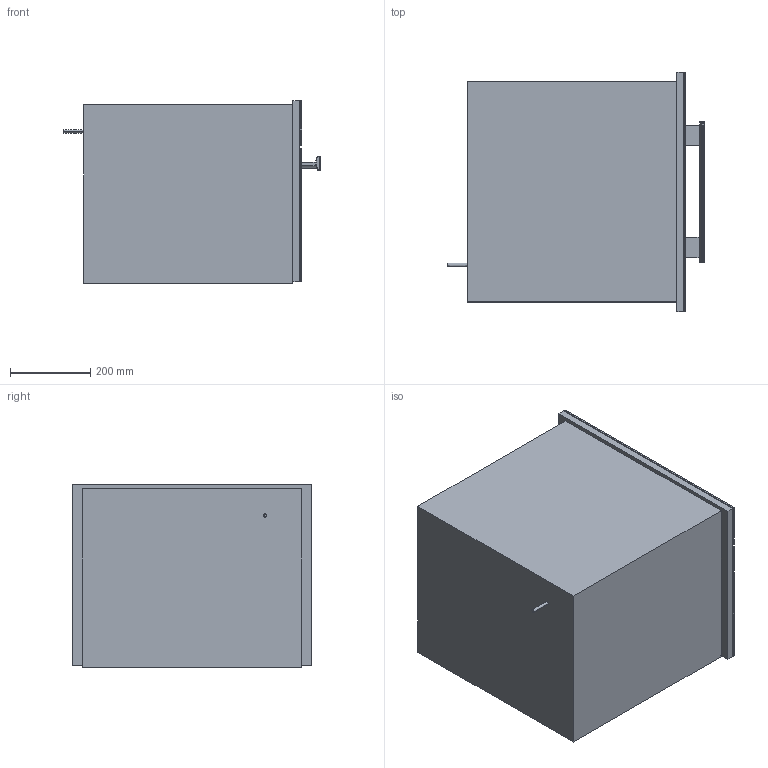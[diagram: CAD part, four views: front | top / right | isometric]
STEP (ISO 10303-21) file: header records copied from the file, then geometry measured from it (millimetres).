
FILE_DESCRIPTION(/* description */ (''),/* implementation_level */ '2;1');
FILE_NAME(/* name */ 'DG6800_OBSW',/* time_stamp */ '2013-03-11T12:09:28+01:00',/* author */ (''),/* organization */ (''),/* preprocessor_version */ 'ST-DEVELOPER v10',/* originating_system */ '',/* authorisation */ '');
FILE_SCHEMA (('AUTOMOTIVE_DESIGN_CC2'));
Length unit declared in the file: millimetre
Products named in the file (1): 1
Bounding box: 639.35 x 595 x 455.21 mm (x, y, z)
Volume: 97769573.3 mm3; surface area: 3334698.8 mm2
Topology: 43 solids, 44 shells, 243 faces, 446 edges, 288 vertices
Faces by surface type: bspline 243
Entity records: 12449 total; most frequent: CARTESIAN_POINT 9371, ORIENTED_EDGE 872, EDGE_CURVE 442, VERTEX_POINT 288, EDGE_LOOP 247, ADVANCED_FACE 243, FACE_OUTER_BOUND 243, B_SPLINE_CURVE_WITH_KNOTS 142
